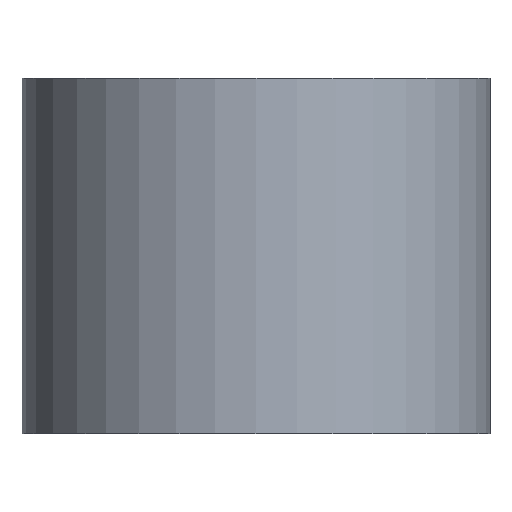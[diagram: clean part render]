
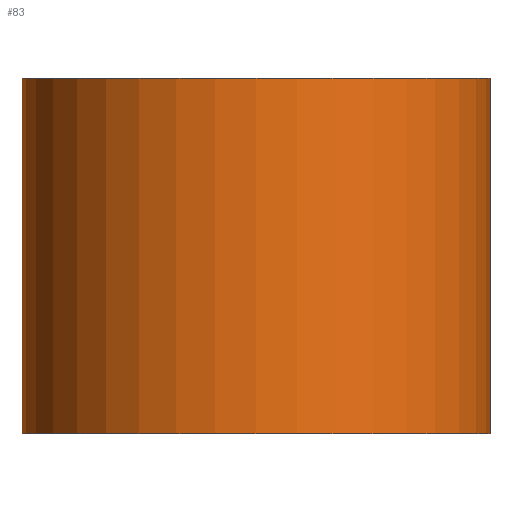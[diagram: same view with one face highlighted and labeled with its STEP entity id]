
A CAD part, front view. The second image highlights one B-rep face of the part: STEP entity #83.
In plain terms, the highlighted cylindrical face has radius 3.95 mm (diameter 7.9 mm), a full revolution.
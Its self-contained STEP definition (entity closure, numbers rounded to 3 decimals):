
#34=LINE('',#167,#36);
#36=VECTOR('',#139,3.95);
#38=CYLINDRICAL_SURFACE('',#113,3.95);
#43=FACE_OUTER_BOUND('',#48,.T.);
#48=EDGE_LOOP('',(#73,#74,#75,#76));
#51=CIRCLE('',#109,3.95);
#54=CIRCLE('',#114,3.95);
#57=VERTEX_POINT('',#156);
#60=VERTEX_POINT('',#165);
#61=EDGE_CURVE('',#57,#57,#51,.T.);
#65=EDGE_CURVE('',#60,#60,#54,.T.);
#66=EDGE_CURVE('',#60,#57,#34,.T.);
#73=ORIENTED_EDGE('',*,*,#65,.F.);
#74=ORIENTED_EDGE('',*,*,#66,.T.);
#75=ORIENTED_EDGE('',*,*,#61,.F.);
#76=ORIENTED_EDGE('',*,*,#66,.F.);
#83=ADVANCED_FACE('',(#43),#38,.T.);
#109=AXIS2_PLACEMENT_3D('',#157,#126,#127);
#113=AXIS2_PLACEMENT_3D('',#164,#135,#136);
#114=AXIS2_PLACEMENT_3D('',#166,#137,#138);
#126=DIRECTION('center_axis',(0.,0.,-1.));
#127=DIRECTION('ref_axis',(1.,0.,0.));
#135=DIRECTION('center_axis',(0.,0.,1.));
#136=DIRECTION('ref_axis',(1.,0.,0.));
#137=DIRECTION('center_axis',(0.,0.,1.));
#138=DIRECTION('ref_axis',(1.,0.,0.));
#139=DIRECTION('',(0.,0.,-1.));
#156=CARTESIAN_POINT('',(-3.95,0.,-3.));
#157=CARTESIAN_POINT('Origin',(0.,0.,-3.));
#164=CARTESIAN_POINT('Origin',(0.,0.,0.));
#165=CARTESIAN_POINT('',(-3.95,0.,3.));
#166=CARTESIAN_POINT('Origin',(0.,0.,3.));
#167=CARTESIAN_POINT('',(-3.95,0.,0.));
